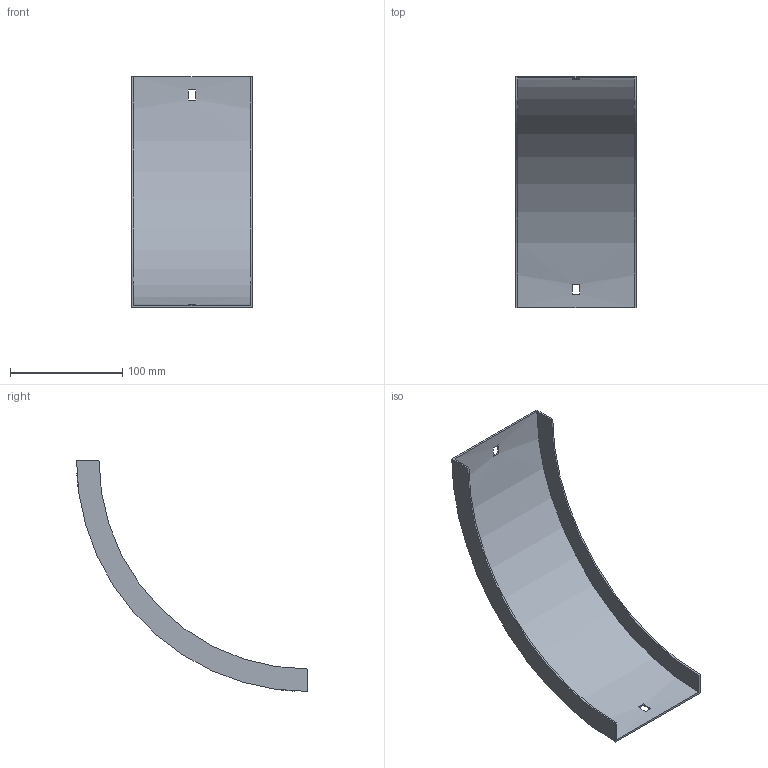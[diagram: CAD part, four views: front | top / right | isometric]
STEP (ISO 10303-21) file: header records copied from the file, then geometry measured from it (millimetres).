
FILE_DESCRIPTION (( 'STEP AP214' ), '1' );
FILE_NAME ('33N1D100.step', '2025-02-21T09:16:56', ( '' ), ( '' ), 'SwSTEP 2.0', 'SolidWorks 2023', '' );
FILE_SCHEMA (( 'AUTOMOTIVE_DESIGN' ));
Length unit declared in the file: millimetre
Products named in the file (1): 33N1D100
Bounding box: 107 x 205.5 x 205.5 mm (x, y, z)
Volume: 68422.2 mm3; surface area: 92632.5 mm2
Topology: 1 solids, 1 shells, 18 faces, 48 edges, 32 vertices
Faces by surface type: plane 14, cylinder 4
Entity records: 599 total; most frequent: DIRECTION 102, CARTESIAN_POINT 99, ORIENTED_EDGE 96, EDGE_CURVE 48, AXIS2_PLACEMENT_3D 35, LINE 32, VECTOR 32, VERTEX_POINT 32
